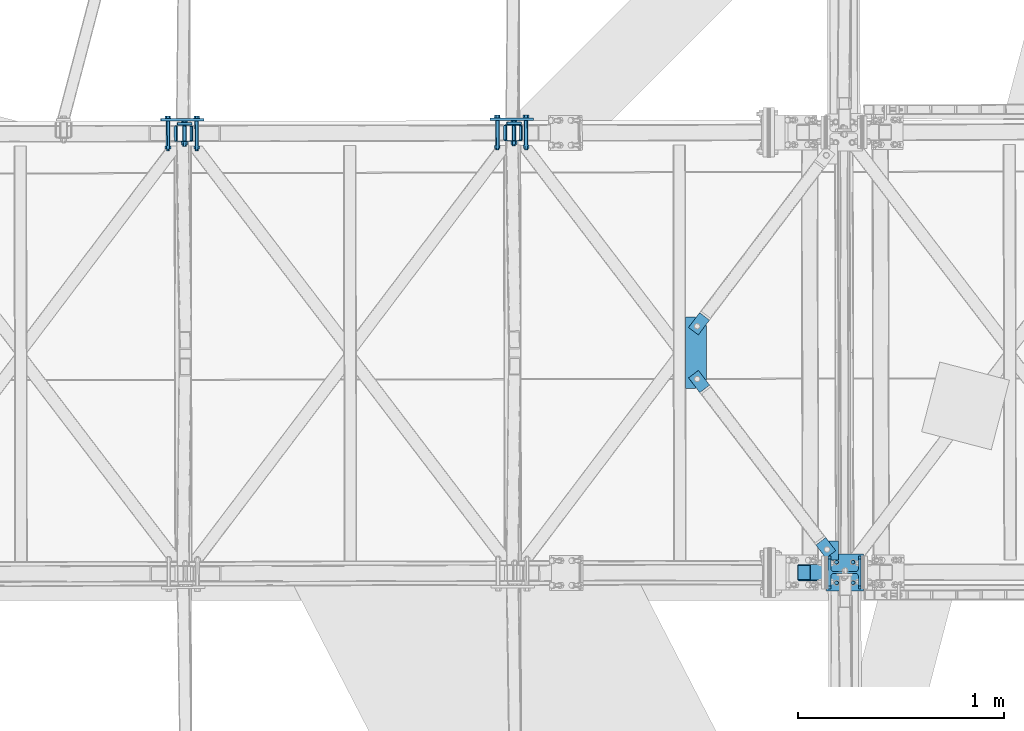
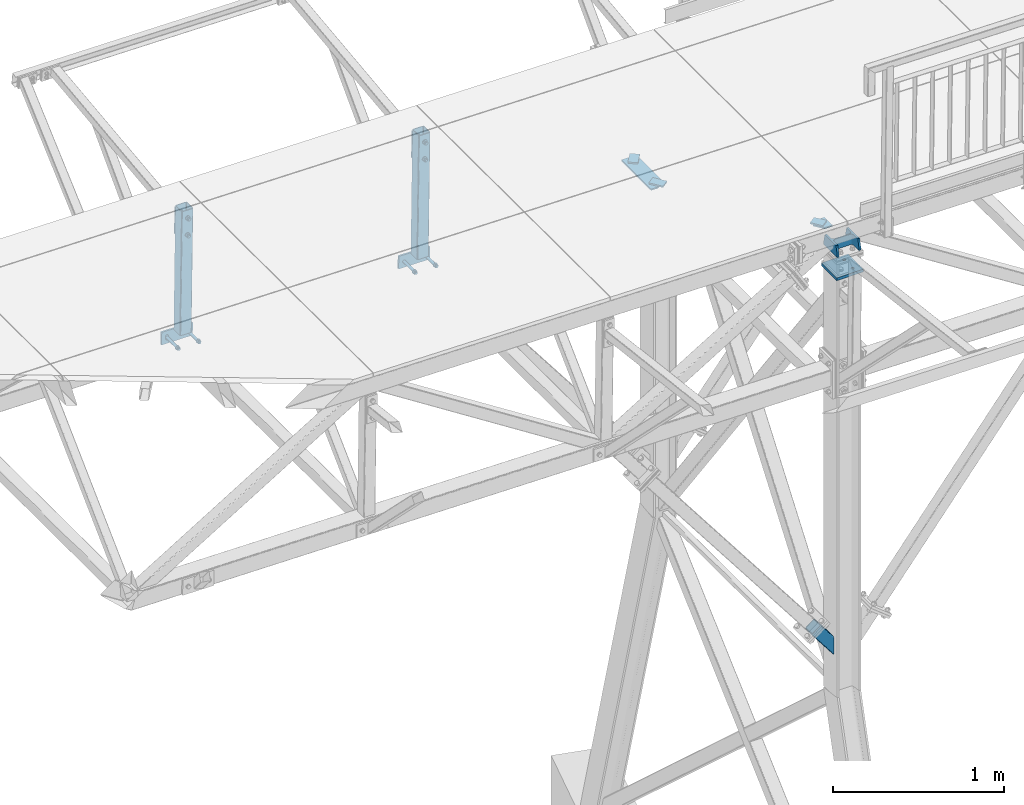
# One storey, part 104 of 169: 14 discrete accessories, 5 mechanical fasteners, 7 elements without a shape of their own.
"""IFC2X3 building model written with IfcOpenShell, lengths in millimetres."""

from ifc_helpers import new_model, si_unit, frame, frame_2d, origin_with_axes, origin_2d_with_axis, place, context, subcontext, project, spatial, polyline, circle_curve, parameter, trimmed, segment, composite_curve, hollow_rectangle, circle, i_section, outline, extrude, boolean, clip, halfspace, source, transform, mapped, material, type_object, element, aggregate, save


model = new_model("IFC2X3")

# Units and contexts
model_context = context("Model", 3, precision=1e-05, world=origin_with_axes())
body_context = subcontext(model_context, "Body", "Model", "MODEL_VIEW")
ifc_project = project(units=[si_unit("LENGTHUNIT", "METRE", prefix="MILLI"), si_unit("AREAUNIT", "SQUARE_METRE"), si_unit("VOLUMEUNIT", "CUBIC_METRE"), si_unit("MASSUNIT", "GRAM", prefix="KILO"), si_unit("TIMEUNIT", "SECOND"), si_unit("PLANEANGLEUNIT", "RADIAN"), si_unit("SOLIDANGLEUNIT", "STERADIAN"), si_unit("THERMODYNAMICTEMPERATUREUNIT", "DEGREE_CELSIUS"), si_unit("LUMINOUSINTENSITYUNIT", "LUMEN")], contexts=[model_context])

# Site, building, storey
site_placement = place(None, origin_with_axes())
site = spatial("IfcSite", under=ifc_project, at=site_placement, Name="Undefined", CompositionType="ELEMENT")
building_placement = place(site_placement, origin_with_axes())
building = spatial("IfcBuilding", under=site, at=building_placement, Name="Undefined", CompositionType="ELEMENT")
storey_placement = place(building_placement, origin_with_axes())
storey = spatial("IfcBuildingStorey", under=building, at=storey_placement, Name="Undefined", CompositionType="ELEMENT", Elevation=0.0)

# Assembly, discrete accessory
assembly_1_placement = place(storey_placement, origin_with_axes())
assembly_1 = element("IfcElementAssembly", 1, at=assembly_1_placement, inside=storey, Name="Steel Assembly", AssemblyPlace="NOTDEFINED", PredefinedType="RIGID_FRAME")
ifc_material_1 = material(Name="STEEL/S355")
discrete_accessory_type_1 = type_object("IfcDiscreteAccessoryType", Name="BLACHA")
discrete_accessory_1_placement = place(assembly_1_placement, frame((3008.26430231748, 2317.62801076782, 12916.3716033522), z_axis=(-0.0018648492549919, 0.999998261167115, -4.2996762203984e-08), x_axis=(-0.999917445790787, -0.00186469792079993, 0.0127131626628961)))
discrete_accessory_1 = element("IfcDiscreteAccessory", 2, at=discrete_accessory_1_placement, type_object=discrete_accessory_type_1, material=ifc_material_1, Name="BLACHA", ObjectType="BL12*90", context=body_context, shape_type="SweptSolid", body=[
    extrude(outline(polyline([(209.999999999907, -44.999999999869), (0.0, -45.0000000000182), (0.0, 45.0000000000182), (209.999999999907, 45.0000000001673), (209.999999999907, -44.999999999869)])), frame((-1.81898942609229e-12, -1.81898940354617e-12, -5.99999999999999), z_axis=(0.0, 0.0, 1.0), x_axis=(1.0, 0.0, 0.0)), (0.0, 0.0, 1.0), 12.0),
])

assembly_2_placement = place(storey_placement, origin_with_axes())
assembly_2 = element("IfcElementAssembly", 3, at=assembly_2_placement, inside=storey, Name="Steel Assembly", AssemblyPlace="NOTDEFINED", PredefinedType="RIGID_FRAME")
discrete_accessory_2_placement = place(assembly_2_placement, frame((4609.64743475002, 2320.61435322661, 12896.011280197), z_axis=(-0.0018648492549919, 0.999998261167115, -4.2996762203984e-08), x_axis=(-0.999917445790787, -0.00186469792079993, 0.0127131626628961)))
discrete_accessory_2 = element("IfcDiscreteAccessory", 4, at=discrete_accessory_2_placement, type_object=discrete_accessory_type_1, material=ifc_material_1, Name="BLACHA", ObjectType="BL12*90", context=body_context, shape_type="SweptSolid", body=[
    extrude(outline(polyline([(209.999999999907, -44.999999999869), (0.0, -45.0000000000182), (0.0, 45.0000000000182), (209.999999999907, 45.0000000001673), (209.999999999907, -44.999999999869)])), frame((-1.81898942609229e-12, -1.81898940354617e-12, -5.99999999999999), z_axis=(0.0, 0.0, 1.0), x_axis=(1.0, 0.0, 0.0)), (0.0, 0.0, 1.0), 12.0),
])

# Discrete accessory
discrete_accessory_3_placement = place(assembly_1_placement, frame((2948.80733423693, 2297.51713356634, 13743.1084517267), z_axis=(-0.0018648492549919, 0.999998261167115, -4.2996762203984e-08), x_axis=(-0.999917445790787, -0.00186469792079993, 0.0127131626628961)))
discrete_accessory_3 = element("IfcDiscreteAccessory", 5, at=discrete_accessory_3_placement, type_object=discrete_accessory_type_1, material=ifc_material_1, Name="BLACHA", ObjectType="BL12*190", context=body_context, shape_type="SweptSolid", body=[
    extrude(outline(polyline([(69.9999999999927, -94.99999999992), (8.18545231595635e-11, -95.0), (-8.18545231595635e-11, 95.0000000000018), (69.9999999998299, 95.0000000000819), (69.9999999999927, -94.99999999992)])), frame((-1.81898942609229e-12, -1.81898940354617e-12, -5.99999999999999), z_axis=(0.0, 0.0, 1.0), x_axis=(1.0, 0.0, 0.0)), (0.0, 0.0, 1.0), 12.0),
])

discrete_accessory_4_placement = place(assembly_2_placement, frame((4550.1904666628, 2300.50347660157, 13722.7481281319), z_axis=(-0.0018648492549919, 0.999998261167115, -4.2996762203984e-08), x_axis=(-0.999917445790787, -0.00186469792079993, 0.0127131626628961)))
discrete_accessory_4 = element("IfcDiscreteAccessory", 6, at=discrete_accessory_4_placement, type_object=discrete_accessory_type_1, material=ifc_material_1, Name="BLACHA", ObjectType="BL12*190", context=body_context, shape_type="SweptSolid", body=[
    extrude(outline(polyline([(69.9999999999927, -94.99999999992), (8.18545231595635e-11, -95.0), (-8.18545231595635e-11, 95.0000000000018), (69.9999999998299, 95.0000000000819), (69.9999999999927, -94.99999999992)])), frame((-1.81898942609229e-12, -1.81898940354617e-12, -5.99999999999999), z_axis=(0.0, 0.0, 1.0), x_axis=(1.0, 0.0, 0.0)), (0.0, 0.0, 1.0), 12.0),
])

# Assembly, discrete accessory
assembly_3_placement = place(storey_placement, origin_with_axes())
assembly_3 = element("IfcElementAssembly", 7, at=assembly_3_placement, inside=storey, Name="Steel Assembly", AssemblyPlace="NOTDEFINED", PredefinedType="RIGID_FRAME")
ifc_material_2 = material(Name="STEEL/S235")
discrete_accessory_5_placement = place(assembly_3_placement, frame((5363.92554506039, 1307.58743478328, 13886.0461867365), z_axis=(0.012713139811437, 2.3750999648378e-05, 0.999919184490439), x_axis=(0.797602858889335, -0.603097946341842, -0.0101265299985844)))
discrete_accessory_5 = element("IfcDiscreteAccessory", 8, at=discrete_accessory_5_placement, type_object=discrete_accessory_type_1, material=ifc_material_2, Name="BLACHA", ObjectType="BL10*60", context=body_context, shape_type="SweptSolid", body=[
    extrude(outline(polyline([(0.0, 0.0), (60.0000000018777, -8.8220986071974e-11), (60.0000000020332, 90.0000000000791), (-6.3664629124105e-11, 90.0000000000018), (0.0, 0.0)])), frame((-1.81898926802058e-12, -1.18000176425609e-16, -5.00000000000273), z_axis=(0.0, 0.0, 1.0), x_axis=(1.0, 0.0, 0.0)), (0.0, 0.0, 1.0), 10.0),
])
aggregate(assembly_3, [discrete_accessory_5])

assembly_4_placement = place(storey_placement, origin_with_axes())
assembly_4 = element("IfcElementAssembly", 9, at=assembly_4_placement, inside=storey, Name="Steel Assembly", AssemblyPlace="NOTDEFINED", PredefinedType="RIGID_FRAME")
discrete_accessory_6_placement = place(assembly_4_placement, frame((5412.10356611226, 1098.8156044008, 13885.4386022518), z_axis=(0.012713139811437, 2.3750999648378e-05, 0.999919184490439), x_axis=(-0.795347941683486, -0.606068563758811, 0.0101265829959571)))
discrete_accessory_6 = element("IfcDiscreteAccessory", 10, at=discrete_accessory_6_placement, type_object=discrete_accessory_type_1, material=ifc_material_2, Name="BLACHA", ObjectType="BL10*60", context=body_context, shape_type="SweptSolid", body=[
    extrude(outline(polyline([(0.0, 0.0), (60.0000000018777, -8.8220986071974e-11), (60.0000000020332, 90.0000000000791), (-6.3664629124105e-11, 90.0000000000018), (0.0, 0.0)])), frame((-1.81898926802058e-12, -1.18000176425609e-16, -5.00000000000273), z_axis=(0.0, 0.0, 1.0), x_axis=(1.0, 0.0, 0.0)), (0.0, 0.0, 1.0), 10.0),
])

assembly_5_placement = place(storey_placement, origin_with_axes())
assembly_5 = element("IfcElementAssembly", 11, at=assembly_5_placement, inside=storey, Name="Steel Assembly", AssemblyPlace="NOTDEFINED", PredefinedType="RIGID_FRAME")
discrete_accessory_7_placement = place(assembly_5_placement, frame((5349.7220993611, 1358.37642665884, 13876.2247570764), z_axis=(0.012713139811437, 2.3750999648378e-05, 0.999919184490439), x_axis=(0.00186484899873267, -0.999998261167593, 4.28757666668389e-08)))
discrete_accessory_7 = element("IfcDiscreteAccessory", 12, at=discrete_accessory_7_placement, type_object=discrete_accessory_type_1, material=ifc_material_1, Name="BLACHA", ObjectType="BL10*102", context=body_context, shape_type="SweptSolid", body=[
    extrude(outline(polyline([(0.0, 0.0), (346.767150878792, 3.5106495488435e-10), (346.767150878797, 46.2750587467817), (304.44625854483, 102.03293609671), (42.3208999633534, 102.032936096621), (-2.38742359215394e-11, 46.2750587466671), (0.0, 0.0)])), frame((-1.81898926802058e-12, -1.18000176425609e-16, -5.00000000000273), z_axis=(0.0, 0.0, 1.0), x_axis=(1.0, 0.0, 0.0)), (0.0, 0.0, 1.0), 10.0),
])

# Discrete accessory
discrete_accessory_8_placement = place(assembly_4_placement, frame((6031.9453538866, 186.262951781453, 13877.579506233), z_axis=(0.012713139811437, 2.3750999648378e-05, 0.999919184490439), x_axis=(0.795347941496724, 0.606068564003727, -0.0101265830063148)))
discrete_accessory_8 = element("IfcDiscreteAccessory", 13, at=discrete_accessory_8_placement, type_object=discrete_accessory_type_1, material=ifc_material_2, Name="BLACHA", ObjectType="BL10*60", context=body_context, shape_type="SweptSolid", body=[
    extrude(outline(polyline([(0.0, 0.0), (60.0000000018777, -8.8220986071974e-11), (60.0000000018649, 79.9999999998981), (1.40171323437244e-08, 80.0000000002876), (0.0, 0.0)])), frame((-1.81898926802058e-12, -1.18000176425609e-16, -5.00000000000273), z_axis=(0.0, 0.0, 1.0), x_axis=(1.0, 0.0, 0.0)), (0.0, 0.0, 1.0), 10.0),
])

aggregate(assembly_4, [discrete_accessory_6, discrete_accessory_8])

# Assembly, discrete accessory
assembly_6_placement = place(storey_placement, origin_with_axes())
assembly_6 = element("IfcElementAssembly", 14, at=assembly_6_placement, inside=storey, Name="Steel Assembly", AssemblyPlace="NOTDEFINED", PredefinedType="RIGID_FRAME")
discrete_accessory_9_placement = place(assembly_6_placement, frame((6039.42636412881, 176.276885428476, 13867.4838203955), z_axis=(0.012713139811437, 2.3750999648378e-05, 0.999919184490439), x_axis=(0.9999174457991, 0.00186469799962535, -0.0127131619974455)))
discrete_accessory_9 = element("IfcDiscreteAccessory", 15, at=discrete_accessory_9_placement, type_object=discrete_accessory_type_1, material=ifc_material_1, Name="BLACHA", ObjectType="BL10*97", context=body_context, shape_type="SweptSolid", body=[
    extrude(outline(polyline([(0.0, 0.0), (53.1704025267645, -2.60627075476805e-10), (53.1704025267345, 94.067527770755), (3.92729091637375, 94.0675277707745), (-43.8651771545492, 57.7924690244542), (0.0, 0.0)])), frame((-1.81898926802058e-12, -1.18000176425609e-16, -5.00000000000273), z_axis=(0.0, 0.0, 1.0), x_axis=(1.0, 0.0, 0.0)), (0.0, 0.0, 1.0), 10.0),
])

# Assembly, discrete accessories
assembly_7_placement = place(storey_placement, origin_with_axes())
assembly_7 = element("IfcElementAssembly", 16, at=assembly_7_placement, inside=storey, Name="Steel Assembly", AssemblyPlace="NOTDEFINED", PredefinedType="RIGID_FRAME")
discrete_accessory_10_placement = place(assembly_7_placement, frame((6034.48072415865, 26.2693240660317, 13595.1118372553), z_axis=(-0.00159590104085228, -7.90102138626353e-06, 0.99999872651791), x_axis=(0.999996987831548, 0.00186477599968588, 0.00159591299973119)))
discrete_accessory_10 = element("IfcDiscreteAccessory", 17, at=discrete_accessory_10_placement, type_object=discrete_accessory_type_1, material=ifc_material_2, Name="BLACHA", ObjectType="BL20*180", context=body_context, shape_type="SweptSolid", body=[
    extrude(outline(polyline([(0.0, 0.0), (180.000000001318, 1.73212200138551e-09), (180.000000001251, 180.000000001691), (4.5656634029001e-10, 180.000000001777), (0.0, 0.0)])), frame((-4.54746113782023e-13, 1.81900675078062e-12, -9.99999999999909), z_axis=(0.0, 0.0, 1.0), x_axis=(1.0, 0.0, 0.0)), (0.0, 0.0, 1.0), 20.0),
])
discrete_accessory_type_2 = type_object("IfcDiscreteAccessoryType", Name="BEAM")
discrete_accessory_11_placement = place(assembly_7_placement, frame((6123.28719120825, 116.433194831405, 10844.4167696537), z_axis=(-0.792353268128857, -0.00147761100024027, -0.610060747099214), x_axis=(-0.610059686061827, -0.00113766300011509, 0.792354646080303)))
discrete_accessory_11 = element("IfcDiscreteAccessory", 18, at=discrete_accessory_11_placement, type_object=discrete_accessory_type_2, material=ifc_material_1, Name="BEAM", ObjectType="K80/4", context=body_context, shape_type="Clipping", body=[
    clip(clip(extrude(hollow_rectangle(XDim=80.0, YDim=80.0, WallThickness=4.0, InnerFilletRadius=4.0, OuterFilletRadius=8.0, at=origin_2d_with_axis()), frame((324.68348812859, -2.90766667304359e-17, -1.80235542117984e-14), z_axis=(-1.0, -3.46944695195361e-18, -1.38777878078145e-17), x_axis=(1.73472347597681e-18, -1.0, 0.0)), (0.0, 0.0, 1.0), 285.26), halfspace(frame((324.683488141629, -1.47718992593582e-06, -39.9999999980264), z_axis=(-1.0, -3.46944695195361e-18, -1.38777878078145e-17), x_axis=(0.0, 1.0, 0.0)), True)), halfspace(frame((841.162066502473, -2.02643773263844e-05, -546.672235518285), z_axis=(0.610060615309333, 2.87976546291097e-08, 0.792354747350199), x_axis=(1.73472347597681e-18, -1.0, 0.0)), True)),
])

# Discrete accessory
discrete_accessory_12_placement = place(assembly_6_placement, frame((6123.22175095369, 116.433486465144, 13815.0726242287), z_axis=(-0.99999826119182, -0.00186483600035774, -1.66000011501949e-07), x_axis=(1.42000003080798e-07, 1.34320000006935e-05, -0.999999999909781)))
discrete_accessory_12 = element("IfcDiscreteAccessory", 19, at=discrete_accessory_12_placement, type_object=discrete_accessory_type_2, material=ifc_material_1, Name="BEAM", ObjectType="HEB160", context=body_context, shape_type="CSG", body=[
    boolean("DIFFERENCE", boolean("DIFFERENCE", boolean("DIFFERENCE", boolean("DIFFERENCE", extrude(i_section(OverallWidth=160.0, OverallDepth=160.0, WebThickness=8.0, FlangeThickness=13.0, FilletRadius=15.0, at=origin_2d_with_axis()), frame((74.3169831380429, -1.4211106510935e-14, -1.96715416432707e-21), z_axis=(-1.0, -3.46944695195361e-18, -1.38777878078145e-17), x_axis=(1.73472347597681e-18, -1.0, 0.0)), (0.0, 0.0, 1.0), 76.69), extrude(outline(polyline([(0.0, 0.0), (15.0, 0.0), (0.000196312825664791, 60.0001487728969), (0.0, 0.0)])), frame((-2.35937044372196, -80.0000028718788, 83.0005627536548), z_axis=(-2.54700353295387e-10, 0.0, -1.0), x_axis=(-3.59471185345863e-06, 0.999999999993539, 1.6213224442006e-12)), (0.0, 0.0, 1.0), 166.0)), extrude(outline(polyline([(0.0, 0.0), (15.0, 0.0), (5.3567816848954e-11, 59.9999999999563), (0.0, 0.0)])), frame((-2.36152618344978, 79.9995850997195, -82.9994367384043), z_axis=(0.0, 0.0, 1.0), x_axis=(1.35297118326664e-05, -0.999999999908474, 4.71781138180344e-14)), (0.0, 0.0, 1.0), 166.0)), halfspace(frame((74.316984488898, -2.95869995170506e-11, -79.9999999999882), z_axis=(-0.999999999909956, -1.34197118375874e-05, -1.60482272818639e-08), x_axis=(-1.34197118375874e-05, 0.999999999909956, 1.8189894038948e-15)), True)), halfspace(frame((-14.0663292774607, 0.000711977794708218, 1000.68198200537), z_axis=(0.999919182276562, 1.34308004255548e-05, 0.0127133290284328), x_axis=(-1.34197118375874e-05, 0.999999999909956, 1.8189894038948e-15)), True)),
])

aggregate(assembly_6, [discrete_accessory_9, discrete_accessory_12])

discrete_accessory_13_placement = place(assembly_5_placement, frame((2903.39181396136, 2250.43232318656, 12917.2266064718), z_axis=(-0.999917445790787, -0.00186469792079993, 0.0127131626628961), x_axis=(0.012713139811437, 2.3750999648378e-05, 0.999919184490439)))
discrete_accessory_13 = element("IfcDiscreteAccessory", 20, at=discrete_accessory_13_placement, type_object=discrete_accessory_type_2, material=ifc_material_1, Name="BEAM", ObjectType="K80/4", context=body_context, shape_type="Clipping", body=[
    clip(clip(extrude(hollow_rectangle(XDim=80.0, YDim=80.0, WallThickness=4.0, InnerFilletRadius=4.0, OuterFilletRadius=8.0, at=origin_2d_with_axis()), frame((940.000112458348, 4.54747487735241e-13, 0.0), z_axis=(-1.0, -3.46944695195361e-18, -1.38777878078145e-17), x_axis=(1.73472347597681e-18, -1.0, 0.0)), (0.0, 0.0, 1.0), 880.0), halfspace(frame((940.000112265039, -6.72889655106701e-09, 999.999999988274), z_axis=(-1.0, -3.46944695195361e-18, -1.38777878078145e-17), x_axis=(1.73472347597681e-18, -1.0, 0.0)), True)), halfspace(frame((60.0001122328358, 8.14088707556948e-09, 1000.00000001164), z_axis=(1.0, 0.0, 0.0), x_axis=(0.0, 1.0, 0.0)), True)),
])

discrete_accessory_14_placement = place(assembly_5_placement, frame((4504.77494638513, 2253.41866622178, 12896.8662827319), z_axis=(-0.999917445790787, -0.00186469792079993, 0.0127131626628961), x_axis=(0.012713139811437, 2.3750999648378e-05, 0.999919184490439)))
discrete_accessory_14 = element("IfcDiscreteAccessory", 21, at=discrete_accessory_14_placement, type_object=discrete_accessory_type_2, material=ifc_material_1, Name="BEAM", ObjectType="K80/4", context=body_context, shape_type="Clipping", body=[
    clip(clip(extrude(hollow_rectangle(XDim=80.0, YDim=80.0, WallThickness=4.0, InnerFilletRadius=4.0, OuterFilletRadius=8.0, at=origin_2d_with_axis()), frame((940.000112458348, 4.54747487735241e-13, 0.0), z_axis=(-1.0, -3.46944695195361e-18, -1.38777878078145e-17), x_axis=(1.73472347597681e-18, -1.0, 0.0)), (0.0, 0.0, 1.0), 880.0), halfspace(frame((940.000112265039, -6.72889655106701e-09, 999.999999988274), z_axis=(-1.0, -3.46944695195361e-18, -1.38777878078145e-17), x_axis=(1.73472347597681e-18, -1.0, 0.0)), True)), halfspace(frame((60.0001122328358, 8.14088707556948e-09, 1000.00000001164), z_axis=(1.0, 0.0, 0.0), x_axis=(0.0, 1.0, 0.0)), True)),
])

aggregate(assembly_5, [discrete_accessory_7, discrete_accessory_13, discrete_accessory_14])

# Mechanical fastener
ifc_material_3 = material(Name="Undefined")
discrete_accessory_type_3 = type_object("IfcDiscreteAccessoryType", Name="Bolt assembly")
shared_shape_1 = source(origin_with_axes(), body_context, "Body", "SweptSolid", [
    extrude(circle(Radius=9.5, at=origin_2d_with_axis()), frame((0.0, 4.39999998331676, 0.0), z_axis=(0.0, 1.0, 0.0), x_axis=(1.0, 0.0, 0.0)), (0.0, 0.0, 1.0), 120.1),
    extrude(outline(composite_curve([segment(polyline([(9.5, 10.0), (9.5, -10.0)]), True, "CONTINUOUS"), segment(trimmed(circle_curve(frame_2d((0.0, -10.0), x_axis=(1.0, 0.0)), 9.5), [parameter(0.0)], [parameter(3.14159265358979)], False, "PARAMETER"), True, "CONTINUOUS"), segment(polyline([(-9.5, -10.0), (-9.5, 10.0)]), True, "CONTINUOUS"), segment(trimmed(circle_curve(frame_2d((0.0, 10.0), x_axis=(-1.0, 0.0)), 9.5), [parameter(0.0)], [parameter(3.14159265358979)], False, "PARAMETER"), True, "DISCONTINUOUS")], self_intersect=False)), frame((0.0, -8.39999975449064, 0.0), z_axis=(0.0, 1.0, 0.0), x_axis=(1.0, 0.0, 0.0)), (0.0, 0.0, 1.0), 12.0),
    extrude(outline(polyline([(13.85640646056, 0.0), (6.92820323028, 12.0000000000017), (-6.92820323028, 12.0000000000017), (-13.85640646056, 0.0), (-6.92820323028, -12.0000000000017), (6.92820323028, -12.0000000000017), (13.85640646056, 0.0)])), frame((0.0, -21.4999999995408, 0.0), z_axis=(0.0, 1.0, 0.0), x_axis=(1.0, 0.0, 0.0)), (0.0, 0.0, 1.0), 10.0),
    extrude(circle(Radius=8.0, at=origin_2d_with_axis()), frame((0.0, -11.4999999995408, 0.0), z_axis=(0.0, 1.0, 0.0), x_axis=(1.0, 0.0, 0.0)), (0.0, 0.0, 1.0), 160.0),
    extrude(circle(Radius=15.0, at=origin_2d_with_axis()), frame((0.0, -11.4999999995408, 0.0), z_axis=(0.0, 1.0, 0.0), x_axis=(1.0, 0.0, 0.0)), (0.0, 0.0, 1.0), 3.0),
    extrude(circle(Radius=15.0, at=origin_2d_with_axis()), frame((0.0, 124.499999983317, 0.0), z_axis=(0.0, 1.0, 0.0), x_axis=(1.0, 0.0, 0.0)), (0.0, 0.0, 1.0), 3.0),
    extrude(outline(polyline([(13.85640646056, 0.0), (6.92820323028, 12.0000000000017), (-6.92820323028, 12.0000000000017), (-13.85640646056, 0.0), (-6.92820323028, -12.0000000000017), (6.92820323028, -12.0000000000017), (13.85640646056, 0.0)])), frame((0.0, 127.499999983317, 0.0), z_axis=(0.0, 1.0, 0.0), x_axis=(1.0, 0.0, 0.0)), (0.0, 0.0, 1.0), 13.0),
])
mechanical_fastener_1_placement = place(assembly_1_placement, frame((2833.28341142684, 2314.80169296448, 12918.59640681), z_axis=(-0.012713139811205, -2.37511238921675e-05, -0.999919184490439), x_axis=(0.9999174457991, 0.00186469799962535, -0.0127131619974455)))
mechanical_fastener_1 = element("IfcMechanicalFastener", 22, at=mechanical_fastener_1_placement, type_object=discrete_accessory_type_3, material=ifc_material_3, Name="Bolt assembly", NominalDiameter=16.0, NominalLength=160.0, context=body_context, shape_type="MappedRepresentation", body=[
    mapped(shared_shape_1, transform((0.0, 0.0, 0.0))),
    mapped(shared_shape_1, transform((139.999999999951, -4.15525391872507e-11, -3.09228198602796e-11))),
])

shared_shape_2 = source(origin_with_axes(), body_context, "Body", "SweptSolid", [
    extrude(circle(Radius=9.5, at=origin_2d_with_axis()), frame((0.0, 4.39999998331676, 0.0), z_axis=(0.0, 1.0, 0.0), x_axis=(1.0, 0.0, 0.0)), (0.0, 0.0, 1.0), 120.1),
    extrude(outline(composite_curve([segment(polyline([(9.5, 10.0), (9.5, -10.0)]), True, "CONTINUOUS"), segment(trimmed(circle_curve(frame_2d((0.0, -10.0), x_axis=(1.0, 0.0)), 9.5), [parameter(0.0)], [parameter(3.14159265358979)], False, "PARAMETER"), True, "CONTINUOUS"), segment(polyline([(-9.5, -10.0), (-9.5, 10.0)]), True, "CONTINUOUS"), segment(trimmed(circle_curve(frame_2d((0.0, 10.0), x_axis=(-1.0, 0.0)), 9.5), [parameter(0.0)], [parameter(3.14159265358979)], False, "PARAMETER"), True, "DISCONTINUOUS")], self_intersect=False)), frame((0.0, -8.39999975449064, 0.0), z_axis=(0.0, 1.0, 0.0), x_axis=(1.0, 0.0, 0.0)), (0.0, 0.0, 1.0), 12.0),
    extrude(outline(polyline([(13.85640646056, 0.0), (6.92820323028, 12.0000000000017), (-6.92820323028, 12.0000000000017), (-13.85640646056, 0.0), (-6.92820323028, -12.0000000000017), (6.92820323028, -12.0000000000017), (13.85640646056, 0.0)])), frame((0.0, -21.4999999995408, 0.0), z_axis=(0.0, 1.0, 0.0), x_axis=(1.0, 0.0, 0.0)), (0.0, 0.0, 1.0), 10.0),
    extrude(circle(Radius=8.0, at=origin_2d_with_axis()), frame((0.0, -11.4999999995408, 0.0), z_axis=(0.0, 1.0, 0.0), x_axis=(1.0, 0.0, 0.0)), (0.0, 0.0, 1.0), 160.0),
    extrude(circle(Radius=15.0, at=origin_2d_with_axis()), frame((0.0, -11.4999999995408, 0.0), z_axis=(0.0, 1.0, 0.0), x_axis=(1.0, 0.0, 0.0)), (0.0, 0.0, 1.0), 3.0),
    extrude(circle(Radius=15.0, at=origin_2d_with_axis()), frame((0.0, 124.499999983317, 0.0), z_axis=(0.0, 1.0, 0.0), x_axis=(1.0, 0.0, 0.0)), (0.0, 0.0, 1.0), 3.0),
    extrude(outline(polyline([(13.85640646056, 0.0), (6.92820323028, 12.0000000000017), (-6.92820323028, 12.0000000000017), (-13.85640646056, 0.0), (-6.92820323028, -12.0000000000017), (6.92820323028, -12.0000000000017), (13.85640646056, 0.0)])), frame((0.0, 127.499999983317, 0.0), z_axis=(0.0, 1.0, 0.0), x_axis=(1.0, 0.0, 0.0)), (0.0, 0.0, 1.0), 13.0),
])
mechanical_fastener_2_placement = place(assembly_2_placement, frame((4434.66654385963, 2317.78803542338, 12898.236083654), z_axis=(-0.012713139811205, -2.37511238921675e-05, -0.999919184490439), x_axis=(0.9999174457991, 0.00186469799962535, -0.0127131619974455)))
mechanical_fastener_2 = element("IfcMechanicalFastener", 23, at=mechanical_fastener_2_placement, type_object=discrete_accessory_type_3, material=ifc_material_3, Name="Bolt assembly", NominalDiameter=16.0, NominalLength=160.0, context=body_context, shape_type="MappedRepresentation", body=[
    mapped(shared_shape_2, transform((0.0, 0.0, 0.0))),
    mapped(shared_shape_2, transform((139.999999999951, -4.15525391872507e-11, -3.09228198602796e-11))),
])

shared_shape_3 = source(origin_with_axes(), body_context, "Body", "SweptSolid", [
    extrude(circle(Radius=9.5, at=origin_2d_with_axis()), frame((0.0, 4.39999998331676, 0.0), z_axis=(0.0, 1.0, 0.0), x_axis=(1.0, 0.0, 0.0)), (0.0, 0.0, 1.0), 80.1),
    extrude(outline(composite_curve([segment(polyline([(9.5, 10.0), (9.5, -10.0)]), True, "CONTINUOUS"), segment(trimmed(circle_curve(frame_2d((0.0, -10.0), x_axis=(1.0, 0.0)), 9.5), [parameter(0.0)], [parameter(3.14159265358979)], False, "PARAMETER"), True, "CONTINUOUS"), segment(polyline([(-9.5, -10.0), (-9.5, 10.0)]), True, "CONTINUOUS"), segment(trimmed(circle_curve(frame_2d((0.0, 10.0), x_axis=(-1.0, 0.0)), 9.5), [parameter(0.0)], [parameter(3.14159265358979)], False, "PARAMETER"), True, "DISCONTINUOUS")], self_intersect=False)), frame((0.0, -8.39999975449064, 0.0), z_axis=(0.0, 1.0, 0.0), x_axis=(1.0, 0.0, 0.0)), (0.0, 0.0, 1.0), 12.0),
    extrude(outline(polyline([(13.85640646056, 0.0), (6.92820323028, 12.0000000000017), (-6.92820323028, 12.0000000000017), (-13.85640646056, 0.0), (-6.92820323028, -12.0000000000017), (6.92820323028, -12.0000000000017), (13.85640646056, 0.0)])), frame((0.0, -21.4999999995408, 0.0), z_axis=(0.0, 1.0, 0.0), x_axis=(1.0, 0.0, 0.0)), (0.0, 0.0, 1.0), 10.0),
    extrude(circle(Radius=8.0, at=origin_2d_with_axis()), frame((0.0, -11.4999999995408, 0.0), z_axis=(0.0, 1.0, 0.0), x_axis=(1.0, 0.0, 0.0)), (0.0, 0.0, 1.0), 120.0),
    extrude(circle(Radius=15.0, at=origin_2d_with_axis()), frame((0.0, -11.4999999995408, 0.0), z_axis=(0.0, 1.0, 0.0), x_axis=(1.0, 0.0, 0.0)), (0.0, 0.0, 1.0), 3.0),
    extrude(circle(Radius=15.0, at=origin_2d_with_axis()), frame((0.0, 84.4999999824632, 0.0), z_axis=(0.0, 1.0, 0.0), x_axis=(1.0, 0.0, 0.0)), (0.0, 0.0, 1.0), 3.0),
    extrude(outline(polyline([(13.85640646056, 0.0), (6.92820323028, 12.0000000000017), (-6.92820323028, 12.0000000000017), (-13.85640646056, 0.0), (-6.92820323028, -12.0000000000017), (6.92820323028, -12.0000000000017), (13.85640646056, 0.0)])), frame((0.0, 87.4999999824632, 0.0), z_axis=(0.0, 1.0, 0.0), x_axis=(1.0, 0.0, 0.0)), (0.0, 0.0, 1.0), 13.0),
])
mechanical_fastener_3_placement = place(assembly_1_placement, frame((2913.81488575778, 2294.95187348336, 13743.5534125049), z_axis=(-0.012713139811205, -2.37511238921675e-05, -0.999919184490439), x_axis=(0.9999174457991, 0.00186469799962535, -0.0127131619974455)))
mechanical_fastener_3 = element("IfcMechanicalFastener", 24, at=mechanical_fastener_3_placement, type_object=discrete_accessory_type_3, material=ifc_material_3, Name="Bolt assembly", NominalDiameter=16.0, NominalLength=120.0, context=body_context, shape_type="MappedRepresentation", body=[
    mapped(shared_shape_3, transform((1.18234311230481e-11, 9.20081788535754e-11, -60.0000000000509))),
    mapped(shared_shape_3, transform((-1.2732925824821e-11, -9.20223897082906e-11, 60.0000000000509))),
])

aggregate(assembly_1, [mechanical_fastener_1, discrete_accessory_1, mechanical_fastener_3, discrete_accessory_3])

shared_shape_4 = source(origin_with_axes(), body_context, "Body", "SweptSolid", [
    extrude(circle(Radius=9.5, at=origin_2d_with_axis()), frame((0.0, 4.39999998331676, 0.0), z_axis=(0.0, 1.0, 0.0), x_axis=(1.0, 0.0, 0.0)), (0.0, 0.0, 1.0), 80.1),
    extrude(outline(composite_curve([segment(polyline([(9.5, 10.0), (9.5, -10.0)]), True, "CONTINUOUS"), segment(trimmed(circle_curve(frame_2d((0.0, -10.0), x_axis=(1.0, 0.0)), 9.5), [parameter(0.0)], [parameter(3.14159265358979)], False, "PARAMETER"), True, "CONTINUOUS"), segment(polyline([(-9.5, -10.0), (-9.5, 10.0)]), True, "CONTINUOUS"), segment(trimmed(circle_curve(frame_2d((0.0, 10.0), x_axis=(-1.0, 0.0)), 9.5), [parameter(0.0)], [parameter(3.14159265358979)], False, "PARAMETER"), True, "DISCONTINUOUS")], self_intersect=False)), frame((0.0, -8.39999975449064, 0.0), z_axis=(0.0, 1.0, 0.0), x_axis=(1.0, 0.0, 0.0)), (0.0, 0.0, 1.0), 12.0),
    extrude(outline(polyline([(13.85640646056, 0.0), (6.92820323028, 12.0000000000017), (-6.92820323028, 12.0000000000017), (-13.85640646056, 0.0), (-6.92820323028, -12.0000000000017), (6.92820323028, -12.0000000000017), (13.85640646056, 0.0)])), frame((0.0, -21.4999999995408, 0.0), z_axis=(0.0, 1.0, 0.0), x_axis=(1.0, 0.0, 0.0)), (0.0, 0.0, 1.0), 10.0),
    extrude(circle(Radius=8.0, at=origin_2d_with_axis()), frame((0.0, -11.4999999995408, 0.0), z_axis=(0.0, 1.0, 0.0), x_axis=(1.0, 0.0, 0.0)), (0.0, 0.0, 1.0), 120.0),
    extrude(circle(Radius=15.0, at=origin_2d_with_axis()), frame((0.0, -11.4999999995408, 0.0), z_axis=(0.0, 1.0, 0.0), x_axis=(1.0, 0.0, 0.0)), (0.0, 0.0, 1.0), 3.0),
    extrude(circle(Radius=15.0, at=origin_2d_with_axis()), frame((0.0, 84.4999999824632, 0.0), z_axis=(0.0, 1.0, 0.0), x_axis=(1.0, 0.0, 0.0)), (0.0, 0.0, 1.0), 3.0),
    extrude(outline(polyline([(13.85640646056, 0.0), (6.92820323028, 12.0000000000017), (-6.92820323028, 12.0000000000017), (-13.85640646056, 0.0), (-6.92820323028, -12.0000000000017), (6.92820323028, -12.0000000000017), (13.85640646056, 0.0)])), frame((0.0, 87.4999999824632, 0.0), z_axis=(0.0, 1.0, 0.0), x_axis=(1.0, 0.0, 0.0)), (0.0, 0.0, 1.0), 13.0),
])
mechanical_fastener_4_placement = place(assembly_2_placement, frame((4515.1980181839, 2297.93821651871, 13723.1930889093), z_axis=(-0.012713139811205, -2.37511238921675e-05, -0.999919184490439), x_axis=(0.9999174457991, 0.00186469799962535, -0.0127131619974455)))
mechanical_fastener_4 = element("IfcMechanicalFastener", 25, at=mechanical_fastener_4_placement, type_object=discrete_accessory_type_3, material=ifc_material_3, Name="Bolt assembly", NominalDiameter=16.0, NominalLength=120.0, context=body_context, shape_type="MappedRepresentation", body=[
    mapped(shared_shape_4, transform((1.18234311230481e-11, 9.20081788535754e-11, -60.0000000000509))),
    mapped(shared_shape_4, transform((-1.2732925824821e-11, -9.20223897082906e-11, 60.0000000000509))),
])

aggregate(assembly_2, [mechanical_fastener_2, discrete_accessory_2, mechanical_fastener_4, discrete_accessory_4])

shared_shape_5 = source(origin_with_axes(), body_context, "Body", "SweptSolid", [
    extrude(circle(Radius=9.0, at=origin_2d_with_axis()), frame((0.0, -33.5391782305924, 0.0), z_axis=(0.0, 1.0, 0.0), x_axis=(1.0, 0.0, 0.0)), (0.0, 0.0, 1.0), 20.1),
])
mechanical_fastener_5_placement = place(assembly_7_placement, frame((6164.86237880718, 116.510793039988, 13571.7817860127), z_axis=(0.00186484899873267, -0.999998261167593, 4.28757666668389e-08), x_axis=(-0.999989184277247, -0.00186483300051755, -0.00426071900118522)))
mechanical_fastener_5 = element("IfcMechanicalFastener", 26, at=mechanical_fastener_5_placement, type_object=discrete_accessory_type_3, material=ifc_material_3, Name="Bolt assembly", NominalDiameter=16.0, NominalLength=20.0000705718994, context=body_context, shape_type="MappedRepresentation", body=[
    mapped(shared_shape_5, transform((4.54747350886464e-12, -1.45519152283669e-11, -49.9999999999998))),
    mapped(shared_shape_5, transform((80.0000000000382, -2.18278728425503e-11, -50.0000000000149))),
    mapped(shared_shape_5, transform((-4.54747350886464e-12, 1.63709046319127e-11, 49.9999999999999))),
    mapped(shared_shape_5, transform((80.0000000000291, 1.2732925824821e-11, 49.9999999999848))),
])

aggregate(assembly_7, [discrete_accessory_11, mechanical_fastener_5, discrete_accessory_10])

save(model, "model.ifc")
